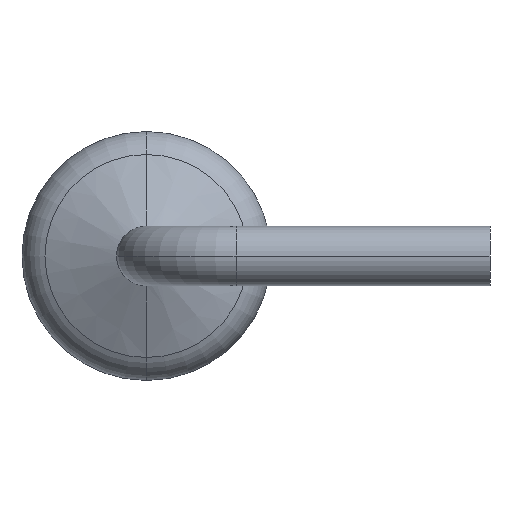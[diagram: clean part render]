
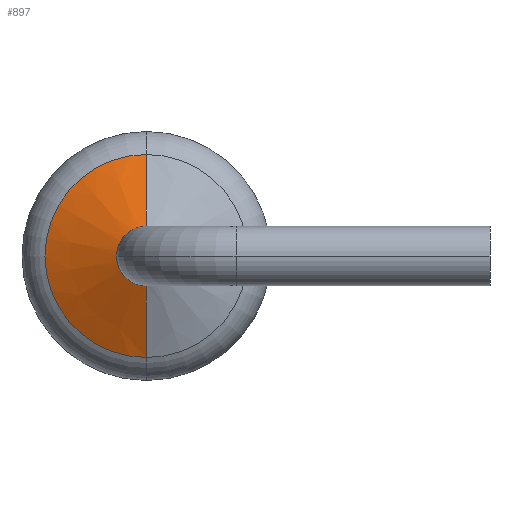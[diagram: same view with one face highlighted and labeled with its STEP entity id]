
A CAD part, left-side view. The second image highlights one B-rep face of the part: STEP entity #897.
In plain terms, the highlighted conical face has half-angle 65 degrees and reference radius 0.3 mm.
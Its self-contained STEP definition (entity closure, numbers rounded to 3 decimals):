
#5 = LINE ( 'NONE', #108, #107 ) ;
#85 = DIRECTION ( 'NONE',  ( 0.423, 0., -0.906 ) ) ;
#86 = VECTOR ( 'NONE', #85, 1000. ) ;
#87 = CARTESIAN_POINT ( 'NONE',  ( -3.75, 1.25, -0.3 ) ) ;
#88 = LINE ( 'NONE', #87, #86 ) ;
#90 = CARTESIAN_POINT ( 'NONE',  ( -3.75, 1.25, 0. ) ) ;
#91 = AXIS2_PLACEMENT_3D ( 'NONE', #90, #115, #114 ) ;
#92 = CONICAL_SURFACE ( 'NONE', #91, 0.3, 1.134 ) ;
#105 = CARTESIAN_POINT ( 'NONE',  ( -3.415, 1.25, 1.019 ) ) ;
#106 = DIRECTION ( 'NONE',  ( 0.423, 0., 0.906 ) ) ;
#107 = VECTOR ( 'NONE', #106, 1000. ) ;
#108 = CARTESIAN_POINT ( 'NONE',  ( -3.75, 1.25, 0.3 ) ) ;
#109 = FACE_OUTER_BOUND ( 'NONE', #898, .T. ) ;
#114 = DIRECTION ( 'NONE',  ( 0., 0., -1. ) ) ;
#115 = DIRECTION ( 'NONE',  ( 1., 0., 0. ) ) ;
#189 = CARTESIAN_POINT ( 'NONE',  ( -3.75, 1.25, -0.3 ) ) ;
#210 = CARTESIAN_POINT ( 'NONE',  ( -3.75, 1.25, 0.3 ) ) ;
#212 = DIRECTION ( 'NONE',  ( -1., 0., 0. ) ) ;
#213 = CARTESIAN_POINT ( 'NONE',  ( -3.75, 1.25, 0. ) ) ;
#214 = AXIS2_PLACEMENT_3D ( 'NONE', #213, #212, #219 ) ;
#215 = CIRCLE ( 'NONE', #214, 0.3 ) ;
#219 = DIRECTION ( 'NONE',  ( 0., 0., 1. ) ) ;
#600 = CARTESIAN_POINT ( 'NONE',  ( -3.75, 1.55, 0. ) ) ;
#660 = DIRECTION ( 'NONE',  ( -1., 0., 0. ) ) ;
#661 = CARTESIAN_POINT ( 'NONE',  ( -3.415, 1.25, 0. ) ) ;
#662 = AXIS2_PLACEMENT_3D ( 'NONE', #661, #660, #709 ) ;
#663 = CIRCLE ( 'NONE', #662, 1.019 ) ;
#708 = CARTESIAN_POINT ( 'NONE',  ( -3.415, 1.25, -1.019 ) ) ;
#709 = DIRECTION ( 'NONE',  ( 0., 0., 1. ) ) ;
#809 = EDGE_CURVE ( 'NONE', #968, #813, #1203, .T. ) ;
#813 = VERTEX_POINT ( 'NONE', #600 ) ;
#834 = ORIENTED_EDGE ( 'NONE', *, *, #959, .F. ) ;
#838 = ORIENTED_EDGE ( 'NONE', *, *, #839, .T. ) ;
#839 = EDGE_CURVE ( 'NONE', #895, #840, #663, .T. ) ;
#840 = VERTEX_POINT ( 'NONE', #708 ) ;
#893 = ORIENTED_EDGE ( 'NONE', *, *, #894, .T. ) ;
#894 = EDGE_CURVE ( 'NONE', #968, #895, #5, .T. ) ;
#895 = VERTEX_POINT ( 'NONE', #105 ) ;
#897 = ADVANCED_FACE ( 'NONE', ( #109 ), #92, .T. ) ;
#898 = EDGE_LOOP ( 'NONE', ( #899, #893, #838, #953, #834 ) ) ;
#899 = ORIENTED_EDGE ( 'NONE', *, *, #809, .F. ) ;
#912 = EDGE_CURVE ( 'NONE', #957, #840, #88, .T. ) ;
#953 = ORIENTED_EDGE ( 'NONE', *, *, #912, .F. ) ;
#957 = VERTEX_POINT ( 'NONE', #189 ) ;
#959 = EDGE_CURVE ( 'NONE', #813, #957, #215, .T. ) ;
#968 = VERTEX_POINT ( 'NONE', #210 ) ;
#1199 = DIRECTION ( 'NONE',  ( 0., 0., 1. ) ) ;
#1200 = DIRECTION ( 'NONE',  ( -1., 0., 0. ) ) ;
#1201 = CARTESIAN_POINT ( 'NONE',  ( -3.75, 1.25, 0. ) ) ;
#1202 = AXIS2_PLACEMENT_3D ( 'NONE', #1201, #1200, #1199 ) ;
#1203 = CIRCLE ( 'NONE', #1202, 0.3 ) ;
